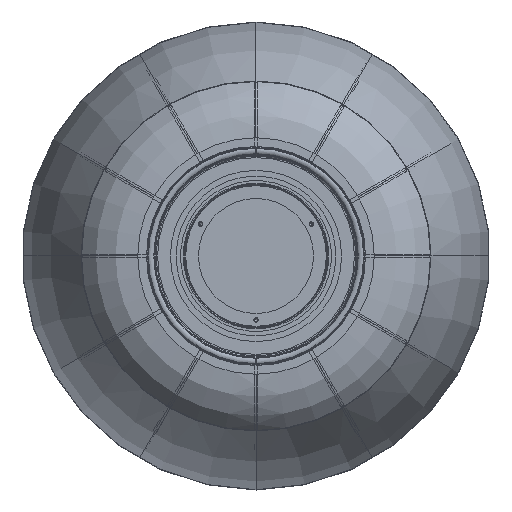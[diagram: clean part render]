
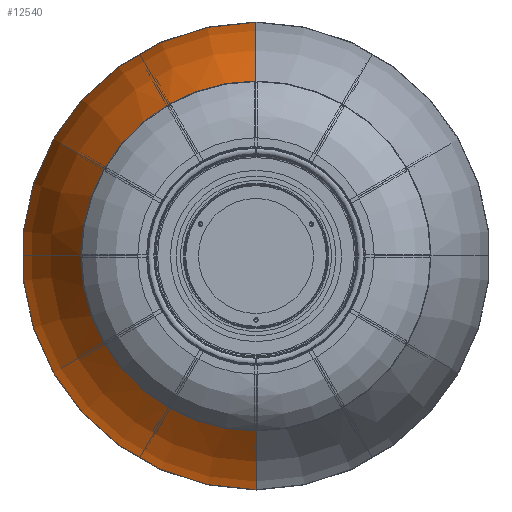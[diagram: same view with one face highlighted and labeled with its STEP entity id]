
A CAD part, front view. The second image highlights one B-rep face of the part: STEP entity #12540.
In plain terms, the highlighted toroidal (fillet/blend) face has major radius 119.177 mm and minor radius 302.5 mm.
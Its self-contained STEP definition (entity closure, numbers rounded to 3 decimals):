
#41 = AXIS2_PLACEMENT_3D ( 'NONE', #11944, #19171, #6724 ) ;
#1058 = VERTEX_POINT ( 'NONE', #20399 ) ;
#1406 = DIRECTION ( 'NONE',  ( 0., 0., -1. ) ) ;
#1968 = CARTESIAN_POINT ( 'NONE',  ( 0., 183.015, -119.176 ) ) ;
#2012 = CARTESIAN_POINT ( 'NONE',  ( 0., 274.271, 169.231 ) ) ;
#2385 = AXIS2_PLACEMENT_3D ( 'NONE', #6143, #13512, #18735 ) ;
#2492 = CIRCLE ( 'NONE', #41, 169.231 ) ;
#2622 = EDGE_LOOP ( 'NONE', ( #15414, #5814, #5243, #5004, #14947 ) ) ;
#3723 = TOROIDAL_SURFACE ( 'NONE', #2385, -119.176, 302.5 ) ;
#3834 = CIRCLE ( 'NONE', #7000, 169.231 ) ;
#4142 = CARTESIAN_POINT ( 'NONE',  ( 0., 274.271, -169.231 ) ) ;
#4299 = VERTEX_POINT ( 'NONE', #21427 ) ;
#4549 = CARTESIAN_POINT ( 'NONE',  ( 0., 22.067, 0. ) ) ;
#5004 = ORIENTED_EDGE ( 'NONE', *, *, #8862, .F. ) ;
#5243 = ORIENTED_EDGE ( 'NONE', *, *, #17156, .T. ) ;
#5513 = DIRECTION ( 'NONE',  ( 0., 0., 1. ) ) ;
#5814 = ORIENTED_EDGE ( 'NONE', *, *, #12922, .T. ) ;
#6143 = CARTESIAN_POINT ( 'NONE',  ( 0., 183.015, 0. ) ) ;
#6248 = CIRCLE ( 'NONE', #14056, 136.952 ) ;
#6724 = DIRECTION ( 'NONE',  ( 0., 0., 1. ) ) ;
#7000 = AXIS2_PLACEMENT_3D ( 'NONE', #17803, #17880, #8821 ) ;
#8821 = DIRECTION ( 'NONE',  ( 0., 0., 1. ) ) ;
#8862 = EDGE_CURVE ( 'NONE', #1058, #15242, #3834, .T. ) ;
#9274 = AXIS2_PLACEMENT_3D ( 'NONE', #22922, #22991, #1406 ) ;
#9699 = EDGE_CURVE ( 'NONE', #12924, #22344, #19857, .T. ) ;
#11944 = CARTESIAN_POINT ( 'NONE',  ( 0., 274.271, 0. ) ) ;
#12456 = AXIS2_PLACEMENT_3D ( 'NONE', #1968, #12790, #5513 ) ;
#12540 = ADVANCED_FACE ( 'NONE', ( #19789 ), #3723, .T. ) ;
#12790 = DIRECTION ( 'NONE',  ( -1., 0., 0. ) ) ;
#12922 = EDGE_CURVE ( 'NONE', #12924, #4299, #6248, .T. ) ;
#12924 = VERTEX_POINT ( 'NONE', #16911 ) ;
#13489 = DIRECTION ( 'NONE',  ( 0., 0., 1. ) ) ;
#13512 = DIRECTION ( 'NONE',  ( 0., 1., 0. ) ) ;
#14051 = CIRCLE ( 'NONE', #12456, 302.5 ) ;
#14056 = AXIS2_PLACEMENT_3D ( 'NONE', #4549, #18887, #13489 ) ;
#14947 = ORIENTED_EDGE ( 'NONE', *, *, #15593, .F. ) ;
#15242 = VERTEX_POINT ( 'NONE', #2012 ) ;
#15414 = ORIENTED_EDGE ( 'NONE', *, *, #9699, .F. ) ;
#15593 = EDGE_CURVE ( 'NONE', #22344, #1058, #2492, .T. ) ;
#16911 = CARTESIAN_POINT ( 'NONE',  ( 0., 22.067, -136.952 ) ) ;
#17156 = EDGE_CURVE ( 'NONE', #4299, #15242, #14051, .T. ) ;
#17803 = CARTESIAN_POINT ( 'NONE',  ( 0., 274.271, 0. ) ) ;
#17880 = DIRECTION ( 'NONE',  ( 0., 1., 0. ) ) ;
#18735 = DIRECTION ( 'NONE',  ( 0., 0., 1. ) ) ;
#18887 = DIRECTION ( 'NONE',  ( 0., 1., 0. ) ) ;
#19171 = DIRECTION ( 'NONE',  ( 0., 1., 0. ) ) ;
#19789 = FACE_OUTER_BOUND ( 'NONE', #2622, .T. ) ;
#19857 = CIRCLE ( 'NONE', #9274, 302.5 ) ;
#20399 = CARTESIAN_POINT ( 'NONE',  ( -169.231, 274.271, 0. ) ) ;
#21427 = CARTESIAN_POINT ( 'NONE',  ( 0., 22.067, 136.952 ) ) ;
#22344 = VERTEX_POINT ( 'NONE', #4142 ) ;
#22922 = CARTESIAN_POINT ( 'NONE',  ( 0., 183.015, 119.176 ) ) ;
#22991 = DIRECTION ( 'NONE',  ( 1., 0., 0. ) ) ;
